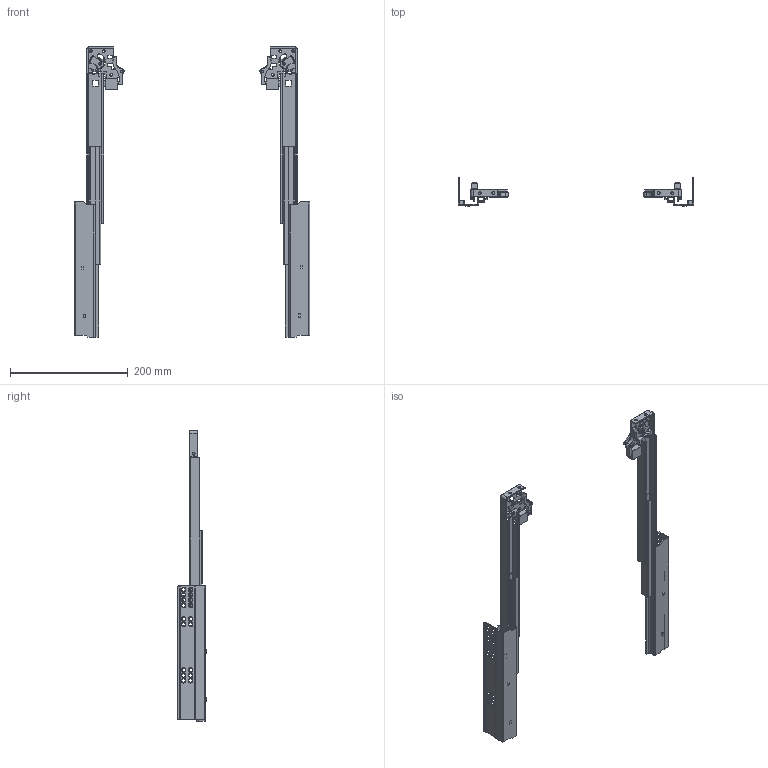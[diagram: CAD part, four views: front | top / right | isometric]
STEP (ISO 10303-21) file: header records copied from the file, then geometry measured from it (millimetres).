
FILE_DESCRIPTION(/* description */ (''),/* implementation_level */ '2;1');
FILE_NAME(/* name */ 'D:\$Workingspace\Designs\Katalog\Cadsoft\GTV Prowadnice\Prowadnice GTV_bryły 3D\PB-0FPO-300_wysunieta.stp',/* time_stamp */ '2016-11-21T14:06:51+01:00',/* author */ ('tomaszw'),/* organization */ (''),/* preprocessor_version */ 'ST-DEVELOPER v16.1',/* originating_system */ 'Autodesk Inventor 2016',/* authorisation */ '');
FILE_SCHEMA (('AUTOMOTIVE_DESIGN { 1 0 10303 214 3 1 1 }'));
Length unit declared in the file: millimetre
Products named in the file (9): PB-0FPO-CL-300; PB-0FPO-CR-300; PB-0FPO-DL-300; PB-0FPO-DR-300; PB-0FPO-DWL-300; PB-0FPO-DWR-300; PB-0FPO-SL; PB-0FPO-SR; PB-0FPO
Assembly tree (8 placements, depth 2):
  PB-0FPO
    PB-0FPO-CL-300
    PB-0FPO-CR-300
    PB-0FPO-DL-300
    PB-0FPO-DR-300
    PB-0FPO-DWL-300
    PB-0FPO-DWR-300
    PB-0FPO-SL
    PB-0FPO-SR
Bounding box: 400 x 48.8 x 494 mm (x, y, z)
Volume: 202523.6 mm3; surface area: 239115.2 mm2
Topology: 16 solids, 16 shells, 1860 faces, 4284 edges, 2462 vertices
Faces by surface type: cylinder 780, plane 444, torus 366, sphere 198, cone 36, bspline 36
Full cylindrical faces by diameter (mm): 3 x2, 4 x6, 4.5 x6, 5 x2, 6 x36, 7.889 x2
Entity records: 55705 total; most frequent: CARTESIAN_POINT 11059, DIRECTION 9862, ORIENTED_EDGE 8236, EDGE_CURVE 4118, AXIS2_PLACEMENT_3D 3971, VERTEX_POINT 2420, CIRCLE 2118, EDGE_LOOP 2110
